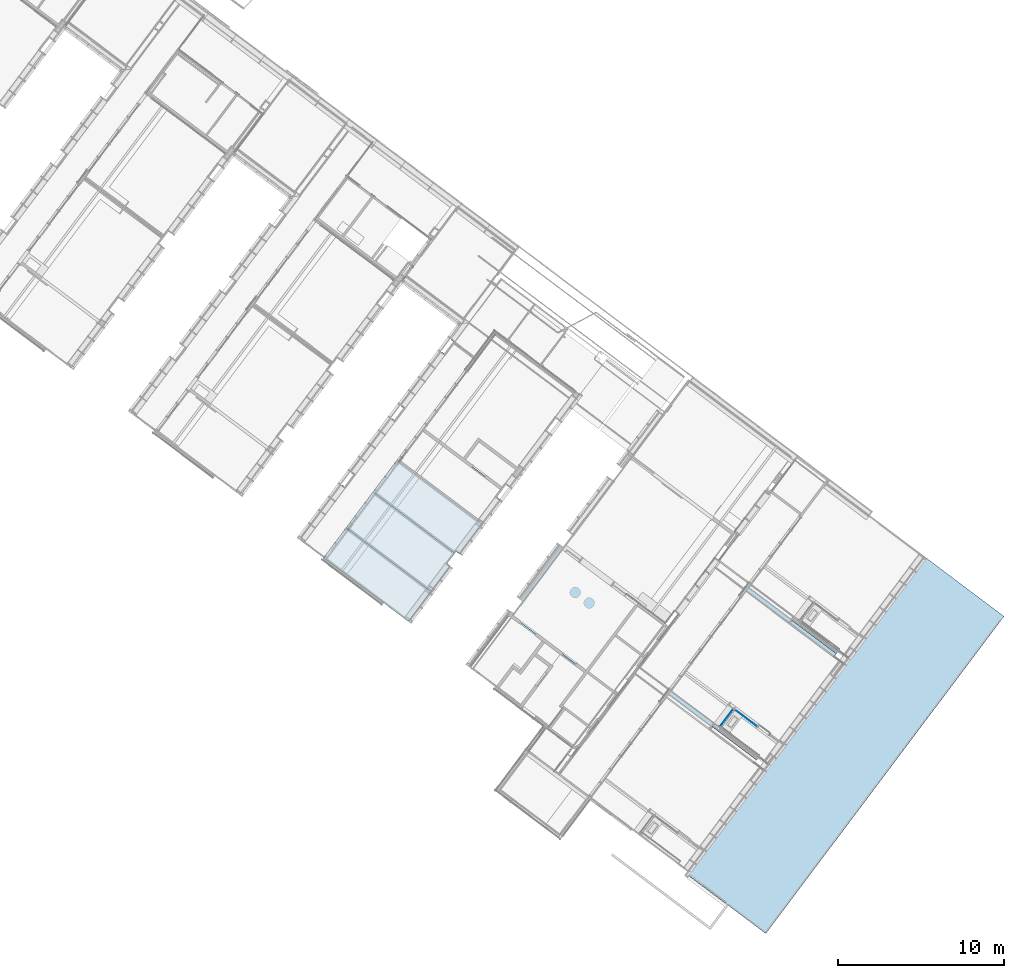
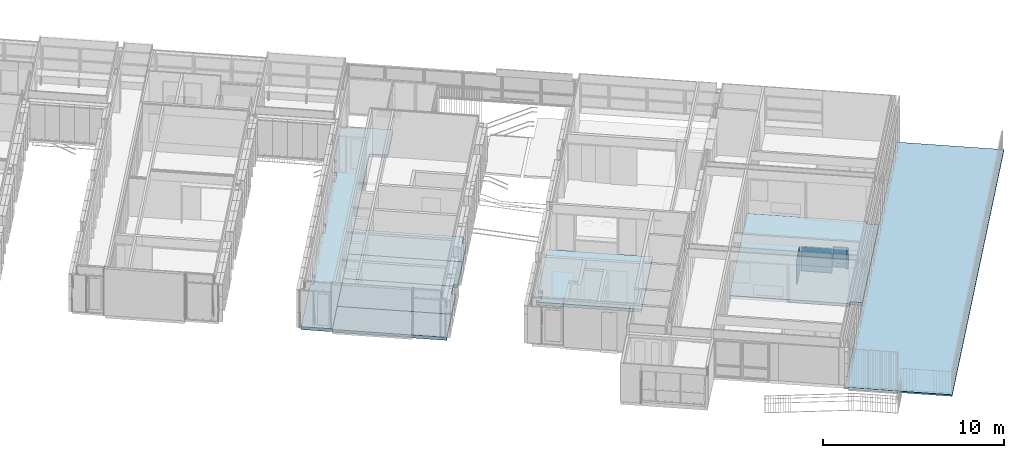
# One storey, part 112 of 243: 8 slabs, 3 plates, 2 elements without a shape of their own.
"""IFC2X3 building model written with IfcOpenShell, lengths in metres."""

from ifc_helpers import new_model, entity, si_unit, converted_unit, derived_unit, direction, frame, frame_2d, origin, origin_2d_with_axis, place, context, subcontext, project, spatial, polyline, rectangle, outline, extrude, faceted_brep, source, transform, mapped, material, material_list, layer, layer_set, layer_usage, type_object, type_shapes, element, aggregate, save


model = new_model("IFC2X3")

# Units and contexts
model_context = context("Model", 3, precision=1e-05, world=origin(), true_north=direction((6.123031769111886e-17, 1.0)))
body_context = subcontext(model_context, "Body", "Model", "MODEL_VIEW")
ifc_project = project(units=[si_unit("LENGTHUNIT", "METRE"), si_unit("AREAUNIT", "SQUARE_METRE"), si_unit("VOLUMEUNIT", "CUBIC_METRE"), converted_unit("PLANEANGLEUNIT", "DEGREE", entity("IfcRatioMeasure", 0.017453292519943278), si_unit("PLANEANGLEUNIT", "RADIAN"), dimensions=[0, 0, 0, 0, 0, 0, 0]), si_unit("MASSUNIT", "GRAM", prefix="KILO"), derived_unit("MASSDENSITYUNIT", [(si_unit("MASSUNIT", "GRAM", prefix="KILO"), 1), (si_unit("LENGTHUNIT", "METRE"), -3)]), derived_unit("IONCONCENTRATIONUNIT", [(si_unit("MASSUNIT", "GRAM", prefix="KILO"), 1), (si_unit("LENGTHUNIT", "METRE"), -3)]), derived_unit("MOMENTOFINERTIAUNIT", [(si_unit("LENGTHUNIT", "METRE"), 4)]), si_unit("TIMEUNIT", "SECOND"), si_unit("FREQUENCYUNIT", "HERTZ"), si_unit("THERMODYNAMICTEMPERATUREUNIT", "DEGREE_CELSIUS"), derived_unit("THERMALTRANSMITTANCEUNIT", [(si_unit("MASSUNIT", "GRAM", prefix="KILO"), 1), (si_unit("THERMODYNAMICTEMPERATUREUNIT", "KELVIN"), -1), (si_unit("TIMEUNIT", "SECOND"), -3)]), derived_unit("THERMALCONDUCTANCEUNIT", [(si_unit("MASSUNIT", "GRAM", prefix="KILO"), 1), (si_unit("THERMODYNAMICTEMPERATUREUNIT", "KELVIN"), -1), (si_unit("TIMEUNIT", "SECOND"), -3), (si_unit("LENGTHUNIT", "METRE"), 1)]), derived_unit("VOLUMETRICFLOWRATEUNIT", [(si_unit("LENGTHUNIT", "METRE"), 3), (si_unit("TIMEUNIT", "SECOND"), -1)]), derived_unit("MASSFLOWRATEUNIT", [(si_unit("MASSUNIT", "GRAM", prefix="KILO"), 1), (si_unit("TIMEUNIT", "SECOND"), -1)]), derived_unit("ROTATIONALFREQUENCYUNIT", [(si_unit("TIMEUNIT", "SECOND"), -1)]), si_unit("ELECTRICCURRENTUNIT", "AMPERE"), si_unit("ELECTRICVOLTAGEUNIT", "VOLT"), si_unit("POWERUNIT", "WATT"), si_unit("FORCEUNIT", "NEWTON", prefix="KILO"), si_unit("ILLUMINANCEUNIT", "LUX"), si_unit("LUMINOUSFLUXUNIT", "LUMEN"), si_unit("LUMINOUSINTENSITYUNIT", "CANDELA"), derived_unit("USERDEFINED", [(si_unit("MASSUNIT", "GRAM", prefix="KILO"), -1), (si_unit("LENGTHUNIT", "METRE"), -2), (si_unit("TIMEUNIT", "SECOND"), 3), (si_unit("LUMINOUSFLUXUNIT", "LUMEN"), 1)]), derived_unit("USERDEFINED", [(si_unit("MASSUNIT", "GRAM", prefix="KILO"), 1), (si_unit("TIMEUNIT", "SECOND"), -3), (si_unit("LENGTHUNIT", "METRE"), 3), (si_unit("ELECTRICCURRENTUNIT", "AMPERE"), -2)]), derived_unit("SOUNDPOWERUNIT", [(si_unit("MASSUNIT", "GRAM", prefix="KILO"), 1), (si_unit("TIMEUNIT", "SECOND"), -3), (si_unit("LENGTHUNIT", "METRE"), 2)]), derived_unit("SOUNDPRESSUREUNIT", [(si_unit("MASSUNIT", "GRAM", prefix="KILO"), 1), (si_unit("LENGTHUNIT", "METRE"), -1), (si_unit("TIMEUNIT", "SECOND"), -2)]), derived_unit("LINEARVELOCITYUNIT", [(si_unit("LENGTHUNIT", "METRE"), 1), (si_unit("TIMEUNIT", "SECOND"), -1)]), si_unit("PRESSUREUNIT", "PASCAL"), derived_unit("USERDEFINED", [(si_unit("MASSUNIT", "GRAM", prefix="KILO"), 1), (si_unit("LENGTHUNIT", "METRE"), -2), (si_unit("TIMEUNIT", "SECOND"), -2)]), derived_unit("LINEARFORCEUNIT", [(si_unit("MASSUNIT", "GRAM", prefix="KILO"), 1), (si_unit("TIMEUNIT", "SECOND"), -2)]), derived_unit("PLANARFORCEUNIT", [(si_unit("MASSUNIT", "GRAM", prefix="KILO"), 1), (si_unit("LENGTHUNIT", "METRE"), -1), (si_unit("TIMEUNIT", "SECOND"), -2)]), derived_unit("SPECIFICHEATCAPACITYUNIT", [(si_unit("THERMODYNAMICTEMPERATUREUNIT", "KELVIN"), -1), (si_unit("LENGTHUNIT", "METRE"), 2), (si_unit("TIMEUNIT", "SECOND"), -2)]), derived_unit("HEATINGVALUEUNIT", [(si_unit("LENGTHUNIT", "METRE"), 2), (si_unit("TIMEUNIT", "SECOND"), -2)]), derived_unit("VAPORPERMEABILITYUNIT", [(si_unit("LENGTHUNIT", "METRE"), -1), (si_unit("TIMEUNIT", "SECOND"), 1)]), derived_unit("DYNAMICVISCOSITYUNIT", [(si_unit("MASSUNIT", "GRAM", prefix="KILO"), 1), (si_unit("TIMEUNIT", "SECOND"), -1), (si_unit("LENGTHUNIT", "METRE"), -1)]), derived_unit("THERMALEXPANSIONCOEFFICIENTUNIT", [(si_unit("THERMODYNAMICTEMPERATUREUNIT", "KELVIN"), -1)]), derived_unit("MODULUSOFELASTICITYUNIT", [(si_unit("MASSUNIT", "GRAM", prefix="KILO"), 1), (si_unit("LENGTHUNIT", "METRE"), -1), (si_unit("TIMEUNIT", "SECOND"), -2)]), derived_unit("ISOTHERMALMOISTURECAPACITYUNIT", [(si_unit("LENGTHUNIT", "METRE"), 3), (si_unit("MASSUNIT", "GRAM", prefix="KILO"), -1)]), derived_unit("MOISTUREDIFFUSIVITYUNIT", [(si_unit("TIMEUNIT", "SECOND"), -1), (si_unit("LENGTHUNIT", "METRE"), 2)])], contexts=[model_context])

# Site, building, storey
site_placement = place(None, frame((0.0, 0.0, 235.0), z_axis=(0.0, 0.0, 1.0), x_axis=(-0.7996477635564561, 0.6004693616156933, 0.0)))
site = spatial("IfcSite", under=ifc_project, at=site_placement, Name="Default", CompositionType="ELEMENT")
building_placement = place(site_placement, origin())
building = spatial("IfcBuilding", under=site, at=building_placement, CompositionType="ELEMENT")
storey_placement = place(building_placement, origin())
storey = spatial("IfcBuildingStorey", under=building, at=storey_placement, Name="P0- Escola", CompositionType="ELEMENT", Elevation=0.0)

# Slabs
ifc_material_1 = material(Name="_Formigó antilliscant- T2- PAV")
ifc_layer_1 = layer(ifc_material_1, 0.14)
ifc_material_2 = material(Name="_Aillament")
ifc_layer_2 = layer(ifc_material_2, 0.06)
ifc_layer_set_1 = layer_set([ifc_layer_1, ifc_layer_2], Name="Suelo:PAV- Formigó Antilliscant + aillament- T1- 20 cm")
ifc_layer_usage_1 = layer_usage(ifc_layer_set_1, "AXIS3", "POSITIVE", 0.0)
slab_type_1 = type_object("IfcSlabType", Name="Suelo:PAV- Formigó Antilliscant + aillament- T1- 20 cm", PredefinedType="FLOOR", material=ifc_layer_set_1)
slab_1_placement = place(storey_placement, origin())
element("IfcSlab", 1, at=slab_1_placement, inside=storey, type_object=slab_type_1, material=ifc_layer_usage_1, Name="Suelo:PAV- Formigó Antilliscant + aillament- T1- 20 cm", ObjectType="Suelo:PAV- Formigó Antilliscant + aillament- T1- 20 cm", PredefinedType="FLOOR", context=body_context, shape_type="SweptSolid", body=[
    extrude(outline(polyline([(-7.725022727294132, -2.311801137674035), (-5.241022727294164, -2.311801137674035), (-5.241022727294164, -1.2808011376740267), (11.761227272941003, -1.2808011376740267), (11.761227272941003, 0.4641988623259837), (7.649977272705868, 0.464198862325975), (7.649977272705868, 0.2841988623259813), (6.749977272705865, 0.2841988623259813), (6.749977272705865, 0.464198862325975), (2.64997727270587, 0.46419886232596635), (2.64997727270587, 0.28419886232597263), (1.749977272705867, 0.28419886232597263), (1.749977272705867, 0.464198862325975), (-2.350022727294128, 0.46419886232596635), (-2.350022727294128, 0.284198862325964), (-3.250022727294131, 0.284198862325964), (-3.250022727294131, 0.464198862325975), (-4.420022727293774, 0.4641988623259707), (-4.420022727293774, 0.5990113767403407), (-7.575022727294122, 0.5990113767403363), (-7.575022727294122, 0.284198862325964), (-7.725022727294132, 0.284198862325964), (-7.725022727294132, -2.311801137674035)])), frame((36.060948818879, -32.11516903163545, 0.0), z_axis=(0.0, 0.0, -1.0), x_axis=(0.0, 1.0, 0.0)), (0.0, 0.0, 1.0), 0.2),
])
slab_2_placement = place(storey_placement, origin())
element("IfcSlab", 2, at=slab_2_placement, inside=storey, type_object=slab_type_1, material=ifc_layer_usage_1, Name="Suelo:PAV- Formigó Antilliscant + aillament- T1- 20 cm", ObjectType="Suelo:PAV- Formigó Antilliscant + aillament- T1- 20 cm", PredefinedType="FLOOR", context=body_context, shape_type="SweptSolid", body=[
    extrude(outline(polyline([(-0.4169999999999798, -2.211666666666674), (1.408999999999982, -2.211666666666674), (1.4089999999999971, 4.17333333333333), (-0.9919999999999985, 4.173333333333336), (-0.992000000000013, -1.9616666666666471), (-0.41699999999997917, -1.9616666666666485), (-0.4169999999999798, -2.211666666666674)])), frame((30.606814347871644, -29.048191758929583, 0.0), z_axis=(0.0, 0.0, -1.0), x_axis=(0.0, 1.0, 0.0)), (0.0, 0.0, 1.0), 0.2),
])
slab_3_placement = place(storey_placement, origin())
element("IfcSlab", 3, at=slab_3_placement, inside=storey, type_object=slab_type_1, material=ifc_layer_usage_1, Name="Suelo:PAV- Formigó Antilliscant + aillament- T1- 20 cm", ObjectType="Suelo:PAV- Formigó Antilliscant + aillament- T1- 20 cm", PredefinedType="FLOOR", context=body_context, shape_type="SweptSolid", body=[
    extrude(outline(polyline([(-1.5576666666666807, -2.2116666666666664), (0.7163333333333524, -2.2116666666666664), (0.7163333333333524, -1.9616666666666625), (0.841333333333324, -1.9616666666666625), (0.841333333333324, 4.173333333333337), (-1.5576666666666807, 4.173333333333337), (-1.5576666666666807, -2.2116666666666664)])), frame((30.606814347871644, -26.081525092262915, 0.0), z_axis=(0.0, 0.0, -1.0), x_axis=(0.0, 1.0, 0.0)), (0.0, 0.0, 1.0), 0.2),
])
slab_4_placement = place(storey_placement, origin())
element("IfcSlab", 4, at=slab_4_placement, inside=storey, type_object=slab_type_1, material=ifc_layer_usage_1, Name="Suelo:PAV- Formigó Antilliscant + aillament- T1- 20 cm", ObjectType="Suelo:PAV- Formigó Antilliscant + aillament- T1- 20 cm", PredefinedType="FLOOR", context=body_context, shape_type="SweptSolid", body=[
    extrude(outline(polyline([(-0.3833333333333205, -2.21166666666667), (1.5416666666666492, -2.21166666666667), (1.5416666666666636, 4.17333333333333), (-1.1583333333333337, 4.173333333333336), (-1.1583333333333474, -1.9616666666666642), (-0.38333333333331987, -1.961666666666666), (-0.3833333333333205, -2.21166666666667)])), frame((30.606814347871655, -24.08185842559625, 0.0), z_axis=(0.0, 0.0, -1.0), x_axis=(0.0, 1.0, 0.0)), (0.0, 0.0, 1.0), 0.2),
])
slab_5_placement = place(storey_placement, origin())
element("IfcSlab", 5, at=slab_5_placement, inside=storey, type_object=slab_type_1, material=ifc_layer_usage_1, Name="Suelo:PAV- Formigó Antilliscant + aillament- T1- 20 cm", ObjectType="Suelo:PAV- Formigó Antilliscant + aillament- T1- 20 cm", PredefinedType="FLOOR", context=body_context, shape_type="SweptSolid", body=[
    extrude(rectangle(XDim=2.251250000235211, YDim=6.385000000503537, at=frame_2d((-2.220446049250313e-15, 0.0), x_axis=(1.0, 0.0))), frame((31.587647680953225, -21.414566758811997, 0.0), z_axis=(0.0, 0.0, -1.0), x_axis=(0.0, 1.0, 0.0)), (0.0, 0.0, 1.0), 0.2),
])
slab_6_placement = place(storey_placement, origin())
element("IfcSlab", 6, at=slab_6_placement, inside=storey, type_object=slab_type_1, material=ifc_layer_usage_1, Name="Suelo:PAV- Formigó Antilliscant + aillament- T1- 20 cm", ObjectType="Suelo:PAV- Formigó Antilliscant + aillament- T1- 20 cm", PredefinedType="FLOOR", context=body_context, shape_type="SweptSolid", body=[
    extrude(outline(polyline([(-3.520750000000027, -4.349375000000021), (1.602250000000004, -4.349375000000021), (1.602250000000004, 1.5331250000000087), (1.4092500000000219, 1.5331250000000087), (1.4092500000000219, 1.283125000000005), (0.5092500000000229, 1.283125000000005), (0.5092500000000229, 1.5331250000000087), (-3.520750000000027, 1.533125), (-3.520750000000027, -4.349375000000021)])), frame((22.36202268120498, -25.874441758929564, 0.0), z_axis=(0.0, 0.0, -1.0), x_axis=(0.0, 1.0, 0.0)), (0.0, 0.0, 1.0), 0.2),
])
slab_7_placement = place(storey_placement, origin())
element("IfcSlab", 7, at=slab_7_placement, inside=storey, type_object=slab_type_1, material=ifc_layer_usage_1, Name="Suelo:PAV- Formigó Antilliscant + aillament- T1- 20 cm", ObjectType="Suelo:PAV- Formigó Antilliscant + aillament- T1- 20 cm", PredefinedType="FLOOR", context=body_context, shape_type="SweptSolid", body=[
    extrude(outline(polyline([(-3.799999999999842, -2.199999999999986), (3.800000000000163, -2.199999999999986), (3.8000000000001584, -1.4999999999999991), (4.0, -1.4999999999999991), (4.0, 5.2000000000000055), (-4.0, 5.199999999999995), (-4.0, -1.500000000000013), (-3.799999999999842, -1.500000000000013), (-3.799999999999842, -2.199999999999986)])), frame((8.14514768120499, -30.190191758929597, 0.0), z_axis=(0.0, 0.0, -1.0), x_axis=(0.0, 1.0, 0.0)), (0.0, 0.0, 1.0), 0.2),
])
ifc_material_3 = material(Name="_Fusta tecnològica- REV- PAV")
ifc_layer_3 = layer(ifc_material_3, 0.023)
ifc_material_4 = material(Name="_Genèric perfils, muntants, rastrells")
ifc_layer_4 = layer(ifc_material_4, 0.07699999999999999)
ifc_layer_set_2 = layer_set([ifc_layer_3, ifc_layer_4], Name="Suelo:PAV- Fusta tecnològica- T1- 10 cm")
ifc_layer_usage_2 = layer_usage(ifc_layer_set_2, "AXIS3", "POSITIVE", 0.0)
slab_type_2 = type_object("IfcSlabType", Name="Suelo:PAV- Fusta tecnològica- T1- 10 cm", PredefinedType="FLOOR", material=ifc_layer_set_2)
slab_8_placement = place(storey_placement, origin())
element("IfcSlab", 8, at=slab_8_placement, inside=storey, type_object=slab_type_2, material=ifc_layer_usage_2, Name="Suelo:PAV- Fusta tecnològica- T1- 10 cm", ObjectType="Suelo:PAV- Fusta tecnològica- T1- 10 cm", PredefinedType="FLOOR", context=body_context, shape_type="SweptSolid", body=[
    extrude(rectangle(XDim=23.864953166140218, YDim=6.0042674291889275, at=frame_2d((7.993605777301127e-15, -9.769962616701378e-15), x_axis=(1.0, 0.0))), frame((2.9430139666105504, -30.107715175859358, -0.019999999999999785), z_axis=(0.0, 0.0, -1.0), x_axis=(0.0, 1.0, 0.0)), (0.0, 0.0, 1.0), 0.09999999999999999),
])

# Curtain wall, plates
curtain_wall_type_1 = type_object("IfcCurtainWallType", Name="Muro cortina:MC- INT- k1", PredefinedType="NOTDEFINED")
curtain_wall_1_placement = place(storey_placement, origin())
curtain_wall_1 = element("IfcCurtainWall", 9, at=curtain_wall_1_placement, inside=storey, type_object=curtain_wall_type_1, Name="Muro cortina:MC- INT- k1", ObjectType="Muro cortina:MC- INT- k1")
ifc_material_5 = material(Name="_Vidre")
plate_type_1 = type_object("IfcPlateType", Name="Panel de sistema:FUS- Vidre- ext- T1", PredefinedType="CURTAIN_PANEL", material=ifc_material_5)
shared_shape_1 = source(origin(), body_context, "Body", "SweptSolid", [
    extrude(rectangle(XDim=1.6500000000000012, YDim=1.6960000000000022, at=frame_2d((0.1599999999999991, 0.0), x_axis=(1.0, 0.0))), frame((0.0, -0.009999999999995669, 0.6650000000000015), z_axis=(0.0, 1.0, 0.0), x_axis=(0.0, 0.0, 1.0)), (0.0, 0.0, 1.0), 0.02),
])
type_shapes(plate_type_1, [shared_shape_1])
plate_1_placement = place(curtain_wall_1_placement, frame((8.66714768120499, -27.82719175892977, 0.8549999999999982), z_axis=(0.0, 0.0, 1.0), x_axis=(-1.0, 0.0, 0.0)))
plate_1 = element("IfcPlate", 10, at=plate_1_placement, type_object=plate_type_1, material=ifc_material_5, Name="Panel de sistema:FUS- Vidre- ext- T1", ObjectType="Panel de sistema:FUS- Vidre- ext- T1", context=body_context, shape_type="MappedRepresentation", body=[
    mapped(shared_shape_1, transform((0.0, 0.0, 0.0), scale=1.0)),
])
ifc_material_6 = material(Name="_Fusta massisa- T1")
ifc_material_list = material_list([ifc_material_6, ifc_material_5])
plate_type_2 = type_object("IfcPlateType", Name="PanellMurCortina_PortaInteriorVidre-infantil sup:PanellMurCortina_PortaInteriorVidre-infantil sup", PredefinedType="CURTAIN_PANEL", material=ifc_material_list)
shared_shape_2 = source(origin(), body_context, "Body", "Brep", [
    faceted_brep([(0.275500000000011, 0.16299999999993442, 1.1650000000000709), (0.2755000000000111, 0.19299999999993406, 1.1650000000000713), (0.2755000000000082, 0.19299999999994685, 0.239999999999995), (0.27550000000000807, 0.1629999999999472, 0.23999999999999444), (0.2905000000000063, 0.19299999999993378, 1.1800000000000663), (0.2905000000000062, 0.16299999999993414, 1.1800000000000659), (0.2905000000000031, 0.16299999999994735, 0.22499999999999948), (0.29050000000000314, 0.19299999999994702, 0.22499999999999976), (-0.21049999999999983, 0.19299999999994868, 0.2399999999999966), (-0.2105, 0.162999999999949, 0.23999999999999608), (-0.2254999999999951, 0.1629999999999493, 0.2250000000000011), (-0.22549999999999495, 0.19299999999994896, 0.22500000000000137), (-0.21049999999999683, 0.19299999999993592, 1.1650000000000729), (-0.21049999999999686, 0.16299999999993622, 1.1650000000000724), (-0.22549999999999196, 0.16299999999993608, 1.1800000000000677), (-0.22549999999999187, 0.19299999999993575, 1.1800000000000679)], [[[0, 1, 2, 3]], [[4, 5, 6, 7]], [[3, 2, 8, 9]], [[7, 6, 10, 11]], [[9, 8, 12, 13]], [[11, 10, 14, 15]], [[13, 12, 1, 0]], [[3, 9, 13, 0], [5, 14, 10, 6]], [[15, 14, 5, 4]], [[1, 12, 8, 2], [7, 11, 15, 4]]], outer=[[True], [True], [True], [True], [True], [True], [True], [False, True], [True], [False, True]]),
    faceted_brep([(0.2905000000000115, 0.16299999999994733, 1.1800000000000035), (-0.22549999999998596, 0.16299999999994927, 1.1800000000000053), (-0.22549999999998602, 0.1429999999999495, 1.1800000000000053), (0.29050000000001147, 0.14299999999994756, 1.1800000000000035), (0.29050000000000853, 0.16299999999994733, 0.2249999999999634), (0.2905000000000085, 0.14299999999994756, 0.2249999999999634), (-0.22549999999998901, 0.1429999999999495, 0.22499999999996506), (-0.22549999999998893, 0.16299999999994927, 0.22499999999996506)], [[[0, 1, 2, 3]], [[4, 5, 6, 7]], [[1, 0, 4, 7]], [[2, 1, 7, 6]], [[3, 2, 6, 5]], [[0, 3, 5, 4]]]),
    faceted_brep([(0.4225000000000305, 0.15799999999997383, 1.2899999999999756), (-0.40749999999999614, 0.15799999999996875, 1.2899999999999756), (-0.4074999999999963, 0.12799999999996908, 1.2899999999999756), (0.39250000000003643, 0.12799999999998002, 1.2899999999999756), (0.39918172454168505, 0.1287535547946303, 1.2899999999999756), (0.40552006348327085, 0.1309726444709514, 1.2899999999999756), (0.41120592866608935, 0.13454604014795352, 1.2899999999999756), (0.41595395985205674, 0.13929407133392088, 1.2899999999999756), (0.41952735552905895, 0.14497993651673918, 1.2899999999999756), (0.4217469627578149, 0.15132054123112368, 1.2899999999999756), (0.4137132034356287, 0.1367867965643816, 0.004999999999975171), (0.4075000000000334, 0.1320192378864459, 0.004999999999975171), (0.4002645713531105, 0.12902222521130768, 0.004999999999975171), (0.39250000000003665, 0.12799999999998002, 0.004999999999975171), (-0.4074999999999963, 0.12799999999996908, 0.004999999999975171), (-0.40749999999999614, 0.15799999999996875, 0.004999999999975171), (-0.42249999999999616, 0.15799999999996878, 0.004999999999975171), (-0.42249999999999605, 0.18799999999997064, 0.004999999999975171), (0.39250000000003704, 0.18799999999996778, 0.004999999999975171), (0.40026457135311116, 0.18697777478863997, 0.004999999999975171), (0.40750000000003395, 0.18398076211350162, 0.004999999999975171), (0.41371320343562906, 0.17921320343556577, 0.004999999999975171), (0.4184807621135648, 0.1729999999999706, 0.004999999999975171), (0.4214777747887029, 0.16576457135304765, 0.004999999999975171), (0.42250000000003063, 0.15799999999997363, 0.004999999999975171), (0.4214777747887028, 0.15023542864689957, 0.004999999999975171), (0.4184807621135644, 0.1429999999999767, 0.004999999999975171), (-0.21049999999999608, 0.1429999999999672, 1.1649999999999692), (-0.21049999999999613, 0.1279999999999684, 1.1649999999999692), (-0.21049999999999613, 0.1279999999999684, 0.23999999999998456), (-0.21049999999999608, 0.1429999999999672, 0.23999999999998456), (0.2903124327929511, 0.14299999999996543, 1.1799999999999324), (0.2755000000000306, 0.14299999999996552, 1.1649999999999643), (0.2755000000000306, 0.14299999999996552, 0.23999999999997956), (-0.2254999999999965, 0.14299999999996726, 1.1799999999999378), (0.2903124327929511, 0.14299999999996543, 0.22499999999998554), (-0.2254999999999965, 0.14299999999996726, 0.22499999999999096), (-0.22549999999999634, 0.18799999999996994, 1.1799999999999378), (-0.22549999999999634, 0.18799999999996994, 0.22499999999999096), (0.3925000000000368, 0.18799999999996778, 1.3049999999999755), (0.3925000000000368, 0.18799999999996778, 1.2899999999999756), (0.2903124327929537, 0.18799999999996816, 1.1799999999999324), (-0.42249999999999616, 0.18799999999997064, 1.3049999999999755), (0.29031243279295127, 0.18799999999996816, 0.22499999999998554), (0.39250000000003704, 0.18799999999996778, 0.9075029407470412), (0.39250000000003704, 0.18799999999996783, 0.5250058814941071), (0.39250000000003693, 0.18799999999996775, 0.19624852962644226), (-0.42249999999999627, 0.15799999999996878, 1.3049999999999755), (0.4225000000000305, 0.15799999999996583, 1.3049999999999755), (0.2755000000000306, 0.1279999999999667, 0.23999999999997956), (0.3925000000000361, 0.12799999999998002, 0.19624535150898), (0.3925000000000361, 0.12799999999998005, 0.5250038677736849), (0.3925000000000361, 0.12799999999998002, 0.7162529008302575), (0.3925000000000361, 0.12799999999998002, 0.9075019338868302), (0.2755000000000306, 0.1279999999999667, 1.1649999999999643), (0.4184807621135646, 0.1729999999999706, 1.3049999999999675), (0.41371320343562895, 0.17921320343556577, 1.3049999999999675), (0.4075000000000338, 0.1839807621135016, 1.3049999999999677), (0.40026457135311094, 0.18697777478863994, 1.3049999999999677), (0.4214777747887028, 0.16576457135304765, 1.3049999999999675), (0.40398050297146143, 0.13028361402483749, 0.17712961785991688), (0.3984699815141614, 0.1286000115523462, 0.2904094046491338), (0.42104770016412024, 0.1672211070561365, 0.7897968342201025), (0.4163006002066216, 0.17626284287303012, 0.9180870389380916), (0.42021638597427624, 0.16948050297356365, 1.018919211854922), (0.42224334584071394, 0.1619157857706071, 0.9273610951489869), (0.42231308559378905, 0.16134363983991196, 0.6747823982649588), (0.410762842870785, 0.13419939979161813, 0.2859895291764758), (0.4039805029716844, 0.13028361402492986, 0.4036891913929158), (0.4202163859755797, 0.14651949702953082, 0.3868714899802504), (0.40398050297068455, 0.1857163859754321, 0.3769129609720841), (0.40454587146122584, 0.18547538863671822, 0.6474999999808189), (0.41076284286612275, 0.1818006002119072, 0.6475000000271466), (0.3984462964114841, 0.18740478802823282, 0.7632890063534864), (0.40398050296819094, 0.18571638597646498, 0.9180870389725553), (0.402413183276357, 0.12968518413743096, 1.074114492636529), (0.39829725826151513, 0.1874345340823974, 1.0013345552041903), (0.42224334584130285, 0.15408421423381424, 0.26996612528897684), (0.4222433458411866, 0.16191578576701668, 0.3414164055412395), (0.4024131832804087, 0.12968518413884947, 0.8240366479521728), (0.4202163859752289, 0.16948050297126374, 0.2633108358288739), (0.40814020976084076, 0.1323995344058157, 0.9490755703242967), (0.4079672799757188, 0.13229468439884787, 0.6741443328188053), (0.4137132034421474, 0.1367867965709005, 0.6536978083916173), (0.41630060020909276, 0.13973715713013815, 0.2613387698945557), (0.4208151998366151, 0.14808791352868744, 0.9314992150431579), (0.4137132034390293, 0.13678679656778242, 0.984365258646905), (0.4223434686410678, 0.15493938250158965, 1.0320400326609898), (0.42231114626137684, 0.15463911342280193, 0.647500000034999), (0.4002645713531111, 0.1869777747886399, 1.2899999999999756), (0.41790025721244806, 0.1420367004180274, 1.0712063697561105), (0.4161905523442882, 0.1764053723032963, 0.6297517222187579), (0.42021638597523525, 0.16948050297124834, 0.5606744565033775), (0.41630060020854, 0.17626284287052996, 0.34141640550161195), (0.4107628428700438, 0.18180060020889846, 0.2699661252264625), (0.4107628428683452, 0.18180060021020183, 1.0165204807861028), (0.413713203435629, 0.1792132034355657, 1.2899999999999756), (0.4184807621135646, 0.17299999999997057, 1.2899999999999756), (0.42041543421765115, 0.14701234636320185, 0.6605215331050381), (0.40750000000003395, 0.18398076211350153, 1.2899999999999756), (0.4214777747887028, 0.16576457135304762, 1.2899999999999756), (0.4176922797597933, 0.14171046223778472, 0.8190315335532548), (0.3975592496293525, 0.18757032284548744, 0.3606272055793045), (0.4176160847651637, 0.1415932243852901, 0.5396705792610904), (0.39881391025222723, 0.1286719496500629, 0.5287089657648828), (0.3977692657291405, 0.18753362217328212, 0.5627086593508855)], [[[0, 1, 2, 3, 4, 5, 6, 7, 8, 9]], [[10, 11, 12, 13, 14, 15, 16, 17, 18, 19, 20, 21, 22, 23, 24, 25, 26]], [[27, 28, 29, 30]], [[31, 32, 27]], [[32, 31, 33]], [[27, 34, 31]], [[35, 33, 31]], [[33, 35, 30]], [[36, 30, 35]], [[30, 36, 34]], [[34, 27, 30]], [[37, 34, 36, 38]], [[39, 40, 41]], [[37, 39, 41]], [[39, 37, 42]], [[40, 43, 41]], [[43, 40, 44]], [[43, 44, 45]], [[43, 45, 46]], [[43, 46, 18]], [[43, 18, 38]], [[17, 38, 18]], [[38, 17, 42]], [[38, 42, 37]], [[47, 42, 17, 16]], [[0, 48, 47, 16, 15, 1]], [[2, 1, 15, 14]], [[2, 28, 3]], [[28, 2, 29]], [[14, 29, 2]], [[29, 14, 13]], [[13, 49, 29]], [[49, 13, 50]], [[49, 50, 51]], [[49, 51, 52]], [[49, 52, 53]], [[49, 53, 3]], [[3, 54, 49]], [[54, 3, 28]], [[31, 41, 43, 35]], [[54, 32, 33, 49]], [[32, 54, 28, 27]], [[41, 31, 34, 37]], [[55, 56, 57, 58, 39, 42, 47, 48, 59]], [[35, 43, 38, 36]], [[49, 33, 30, 29]], [[12, 60, 61]], [[62, 63, 64]], [[65, 66, 62]], [[67, 68, 60]], [[25, 69, 26]], [[70, 71, 72]], [[73, 74, 71]], [[5, 4, 75]], [[76, 74, 73]], [[77, 24, 78]], [[12, 11, 60]], [[53, 52, 79, 75]], [[23, 80, 78]], [[81, 82, 83]], [[84, 67, 10]], [[9, 8, 85]], [[44, 76, 73]], [[86, 7, 6]], [[87, 88, 65]], [[19, 18, 46]], [[39, 58, 89, 40]], [[8, 7, 90]], [[81, 6, 5]], [[24, 77, 25]], [[4, 3, 53]], [[80, 23, 22]], [[91, 92, 93]], [[40, 89, 76]], [[24, 23, 78]], [[93, 94, 72]], [[72, 95, 63]], [[66, 65, 88]], [[21, 94, 93]], [[83, 67, 84]], [[96, 97, 63]], [[98, 88, 85]], [[95, 99, 96]], [[74, 89, 99]], [[87, 65, 0]], [[0, 65, 100]], [[83, 86, 81]], [[93, 80, 22]], [[95, 72, 74]], [[72, 94, 70]], [[80, 93, 92]], [[85, 101, 98]], [[97, 100, 64]], [[63, 95, 96]], [[90, 86, 101]], [[64, 100, 65]], [[93, 22, 21]], [[11, 10, 67]], [[9, 85, 87]], [[102, 46, 45]], [[20, 19, 70]], [[5, 75, 81]], [[101, 86, 83]], [[66, 92, 62]], [[77, 88, 69]], [[21, 20, 94]], [[63, 91, 72]], [[10, 26, 84]], [[82, 67, 83]], [[74, 99, 95]], [[62, 64, 65]], [[63, 97, 64]], [[88, 77, 78]], [[69, 25, 77]], [[20, 70, 94]], [[61, 51, 50]], [[50, 13, 12]], [[46, 102, 19]], [[78, 80, 92]], [[26, 69, 84]], [[84, 69, 103]], [[53, 75, 4]], [[81, 75, 79]], [[81, 79, 82]], [[6, 81, 86]], [[104, 82, 79]], [[67, 82, 68]], [[98, 103, 69]], [[90, 85, 8]], [[86, 90, 7]], [[85, 90, 101]], [[103, 101, 83]], [[88, 98, 69]], [[101, 103, 98]], [[84, 103, 83]], [[51, 61, 104]], [[52, 51, 104]], [[62, 92, 91]], [[88, 78, 66]], [[92, 66, 78]], [[67, 60, 11]], [[61, 60, 68]], [[61, 68, 104]], [[12, 61, 50]], [[82, 104, 68]], [[52, 104, 79]], [[71, 70, 105]], [[74, 72, 71]], [[105, 70, 102]], [[45, 44, 73]], [[40, 76, 44]], [[89, 74, 76]], [[9, 87, 0]], [[88, 87, 85]], [[91, 63, 62]], [[93, 72, 91]], [[105, 102, 45]], [[19, 102, 70]], [[45, 73, 105]], [[71, 105, 73]], [[59, 48, 0, 100]], [[55, 59, 100, 97]], [[56, 55, 97, 96]], [[57, 56, 96, 99]], [[58, 57, 99, 89]]]),
    faceted_brep([(-0.4225000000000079, 0.1319999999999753, 0.0), (-0.4225000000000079, 0.15772492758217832, 0.0), (-0.4095000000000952, 0.15772492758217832, 0.0), (-0.4095000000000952, 0.12799999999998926, 0.0), (-0.4175000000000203, 0.12799999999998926, 0.0), (-0.4175000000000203, 0.1319999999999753, 0.0), (-0.4225000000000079, 0.13199999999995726, 1.305000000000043), (-0.42250000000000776, 0.15772492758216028, 1.3050000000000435), (0.4225000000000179, 0.15772492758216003, 1.3050000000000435), (0.4225000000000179, 0.15772492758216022, 1.292000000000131), (-0.4095000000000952, 0.15772492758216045, 1.2920000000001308), (-0.4095000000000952, 0.1279999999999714, 1.2920000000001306), (0.4225000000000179, 0.12799999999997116, 1.2920000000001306), (0.4225000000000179, 0.12799999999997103, 1.3000000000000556), (-0.41750000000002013, 0.12799999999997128, 1.3000000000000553), (-0.4175000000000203, 0.13199999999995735, 1.3000000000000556), (0.4225000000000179, 0.1319999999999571, 1.3000000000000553), (0.4225000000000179, 0.13199999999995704, 1.305000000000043)], [[[0, 1, 2, 3, 4, 5]], [[1, 0, 6, 7]], [[2, 1, 7, 8, 9, 10]], [[3, 2, 10, 11]], [[4, 3, 11, 12, 13, 14]], [[5, 4, 14, 15]], [[0, 5, 15, 16, 17, 6]], [[7, 6, 17, 8]], [[17, 16, 13, 12, 9, 8]], [[11, 10, 9, 12]], [[15, 14, 13, 16]]]),
    faceted_brep([(0.4225000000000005, -0.026000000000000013, 1.304999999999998), (0.4225000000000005, 0.12400000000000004, 1.304999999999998), (0.3525000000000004, 0.12400000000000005, 1.304999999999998), (0.3525000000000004, -0.026000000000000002, 1.304999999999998), (0.4225000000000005, -0.026000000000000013, 0.0), (0.3525000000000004, -0.026000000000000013, 0.0), (0.3525000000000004, 0.12400000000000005, 0.0), (0.4225000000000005, 0.12400000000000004, 0.0)], [[[0, 1, 2, 3]], [[4, 5, 6, 7]], [[3, 5, 4, 0]], [[2, 6, 5, 3]], [[1, 7, 6, 2]], [[0, 4, 7, 1]]]),
])
type_shapes(plate_type_2, [shared_shape_2])
plate_2_placement = place(curtain_wall_1_placement, frame((7.3466476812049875, -27.827191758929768, 1.2000000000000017), z_axis=(0.0, 0.0, 1.0), x_axis=(-1.0, 0.0, 0.0)))
plate_2 = element("IfcPlate", 11, at=plate_2_placement, type_object=plate_type_2, material=ifc_material_list, Name="PanellMurCortina_PortaInteriorVidre-infantil sup:PanellMurCortina_PortaInteriorVidre-infantil sup", ObjectType="PanellMurCortina_PortaInteriorVidre-infantil sup:PanellMurCortina_PortaInteriorVidre-infantil sup", context=body_context, shape_type="MappedRepresentation", body=[
    mapped(shared_shape_2, transform((0.0, 0.0, 0.0), scale=1.0)),
])
aggregate(curtain_wall_1, [plate_1, plate_2])

# Curtain wall, plate
curtain_wall_type_2 = type_object("IfcCurtainWallType", Name="Muro cortina:MC- INT- k1", PredefinedType="NOTDEFINED")
curtain_wall_2_placement = place(storey_placement, origin())
curtain_wall_2 = element("IfcCurtainWall", 12, at=curtain_wall_2_placement, inside=storey, type_object=curtain_wall_type_2, Name="Muro cortina:MC- INT- k1", ObjectType="Muro cortina:MC- INT- k1")
plate_type_3 = type_object("IfcPlateType", Name="PanellMurCortina_VidreInterior_EixCentral:MC- INT- Panell vidre", PredefinedType="CURTAIN_PANEL", material=ifc_material_5)
shared_shape_3 = source(origin(), body_context, "Body", "SweptSolid", [
    extrude(rectangle(XDim=1.311000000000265, YDim=0.019999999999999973, at=origin_2d_with_axis()), frame((0.0, 0.0, 0.0), z_axis=(0.0, 0.0, 1.0), x_axis=(-1.0, 0.0, 0.0)), (0.0, 0.0, 1.0), 1.6649999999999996),
])
type_shapes(plate_type_3, [shared_shape_3])
plate_3_placement = place(curtain_wall_2_placement, frame((9.61914768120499, -27.145691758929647, 0.8399999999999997), z_axis=(0.0, 0.0, 1.0), x_axis=(0.0, 1.0, 0.0)))
plate_3 = element("IfcPlate", 13, at=plate_3_placement, type_object=plate_type_3, material=ifc_material_5, Name="PanellMurCortina_VidreInterior_EixCentral:MC- INT- Panell vidre", ObjectType="PanellMurCortina_VidreInterior_EixCentral:MC- INT- Panell vidre", context=body_context, shape_type="MappedRepresentation", body=[
    mapped(shared_shape_3, transform((0.0, 0.0, 0.0), scale=1.0)),
])
aggregate(curtain_wall_2, [plate_3])

save(model, "model.ifc")
